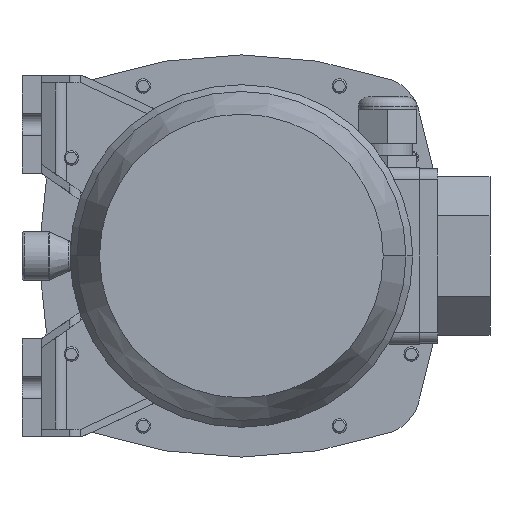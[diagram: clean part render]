
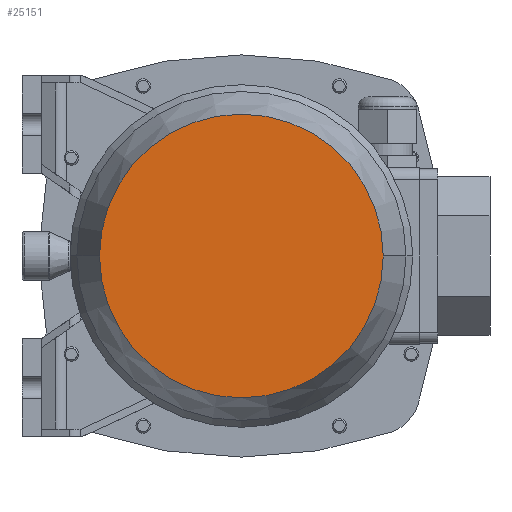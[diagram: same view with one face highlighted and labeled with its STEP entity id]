
A CAD part, front view. The second image highlights one B-rep face of the part: STEP entity #25151.
In plain terms, the highlighted planar face has unit normal (0, -1, 0) as drawn and (1, 0, 0) by its records, which use the part's own axes.
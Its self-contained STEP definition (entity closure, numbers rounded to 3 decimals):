
#18488=CARTESIAN_POINT('',(181.,0.,0.));
#18489=DIRECTION('',(-1.,0.,0.));
#18490=DIRECTION('',(0.,1.,0.));
#18491=AXIS2_PLACEMENT_3D('',#18488,#18489,#18490);
#18496=CARTESIAN_POINT('',(181.,0.,0.));
#18497=DIRECTION('',(1.,0.,0.));
#18498=DIRECTION('',(0.,1.,0.));
#18499=AXIS2_PLACEMENT_3D('',#18496,#18497,#18498);
#20439=CARTESIAN_POINT('',(181.,58.207,0.));
#20441=VERTEX_POINT('',#20439);
#20449=CARTESIAN_POINT('',(181.,-58.207,0.));
#20451=VERTEX_POINT('',#20449);
#25142=CARTESIAN_POINT('',(181.,0.,0.));
#25143=DIRECTION('',(1.,0.,0.));
#25144=DIRECTION('',(0.,-1.,0.));
#25145=AXIS2_PLACEMENT_3D('',#25142,#25143,#25144);
#25146=PLANE('',#25145);
#25147=ORIENTED_EDGE('',*,*,#25124,.T.);
#25148=ORIENTED_EDGE('',*,*,#25135,.F.);
#25149=EDGE_LOOP('',(#25147,#25148));
#25150=FACE_OUTER_BOUND('',#25149,.F.);
#18492=CIRCLE('',#18491,58.207);
#18500=CIRCLE('',#18499,58.207);
#25124=EDGE_CURVE('',#20441,#20451,#18492,.T.);
#25135=EDGE_CURVE('',#20441,#20451,#18500,.T.);
#25151=ADVANCED_FACE('',(#25150),#25146,.T.);
